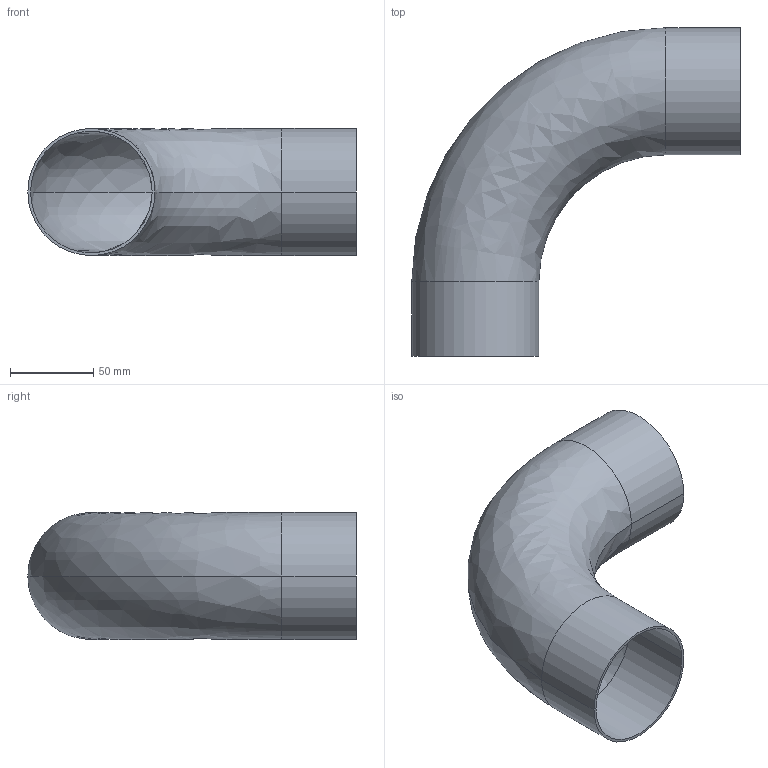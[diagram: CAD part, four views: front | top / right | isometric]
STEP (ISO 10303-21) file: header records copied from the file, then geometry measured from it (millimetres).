
FILE_DESCRIPTION (( 'STEP AP214' ), '1' );
FILE_NAME ('TE2S6L3.0-...STEP', '2016-05-22T10:29:27', ( 'eran' ), ( '' ), 'SwSTEP 2.0', 'SolidWorks 2016', '' );
FILE_SCHEMA (( 'AUTOMOTIVE_DESIGN' ));
Length unit declared in the file: millimetre
Products named in the file (1): TE2S6L3.0-..
Bounding box: 196.9 x 196.9 x 76.2 mm (x, y, z)
Volume: 103775.2 mm3; surface area: 126560.9 mm2
Topology: 1 solids, 1 shells, 14 faces, 28 edges, 16 vertices
Faces by surface type: cylinder 8, bspline 4, plane 2
Entity records: 450 total; most frequent: CARTESIAN_POINT 119, DIRECTION 70, ORIENTED_EDGE 56, AXIS2_PLACEMENT_3D 31, EDGE_CURVE 28, CIRCLE 20, VERTEX_POINT 16, EDGE_LOOP 16
